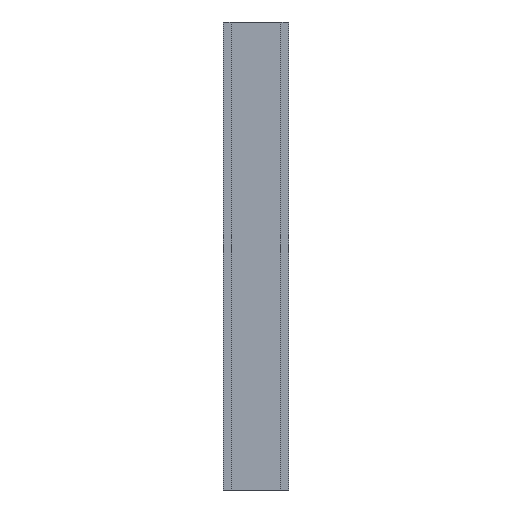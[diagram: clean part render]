
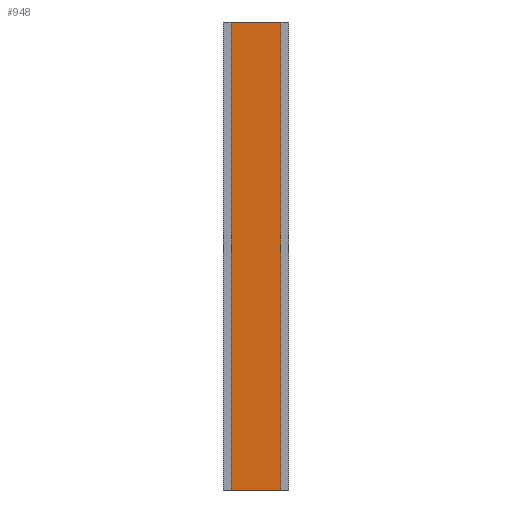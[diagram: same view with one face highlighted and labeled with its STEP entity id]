
A CAD part, front view. The second image highlights one B-rep face of the part: STEP entity #948.
In plain terms, the highlighted planar face has unit normal (0, -1, 0).
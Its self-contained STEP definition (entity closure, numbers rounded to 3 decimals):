
#46 = DIRECTION ( 'NONE',  ( 0., 0., 1. ) ) ;
#49 = CARTESIAN_POINT ( 'NONE',  ( -29.5, -18.3, -500. ) ) ;
#147 = DIRECTION ( 'NONE',  ( 0., 0., 1. ) ) ;
#148 = CARTESIAN_POINT ( 'NONE',  ( -29.5, -18.3, 0. ) ) ;
#150 = DIRECTION ( 'NONE',  ( -1., 0., 0. ) ) ;
#159 = CARTESIAN_POINT ( 'NONE',  ( -29.5, -18.3, -500. ) ) ;
#164 = DIRECTION ( 'NONE',  ( -1., 0., 0. ) ) ;
#224 = CARTESIAN_POINT ( 'NONE',  ( 29.5, -18.3, -500. ) ) ;
#405 = CARTESIAN_POINT ( 'NONE',  ( -29.5, -18.3, -500. ) ) ;
#413 = CARTESIAN_POINT ( 'NONE',  ( -29.5, -18.3, 0. ) ) ;
#485 = VERTEX_POINT ( 'NONE', #654 ) ;
#490 = VERTEX_POINT ( 'NONE', #643 ) ;
#547 = DIRECTION ( 'NONE',  ( 0., 0., 1. ) ) ;
#549 = DIRECTION ( 'NONE',  ( 0., 1., 0. ) ) ;
#566 = CARTESIAN_POINT ( 'NONE',  ( -29.5, -18.3, -500. ) ) ;
#568 = PLANE ( 'NONE',  #1083 ) ;
#619 = VERTEX_POINT ( 'NONE', #405 ) ;
#643 = CARTESIAN_POINT ( 'NONE',  ( 29.5, -18.3, -500. ) ) ;
#654 = CARTESIAN_POINT ( 'NONE',  ( 29.5, -18.3, 0. ) ) ;
#705 = VERTEX_POINT ( 'NONE', #413 ) ;
#948 = ADVANCED_FACE ( 'NONE', ( #1832 ), #568, .F. ) ;
#1083 = AXIS2_PLACEMENT_3D ( 'NONE', #566, #549, #547 ) ;
#1140 = EDGE_CURVE ( 'NONE', #619, #705, #1585, .T. ) ;
#1237 = EDGE_CURVE ( 'NONE', #490, #485, #1667, .T. ) ;
#1248 = EDGE_CURVE ( 'NONE', #490, #619, #1373, .T. ) ;
#1266 = EDGE_CURVE ( 'NONE', #485, #705, #1976, .T. ) ;
#1373 = LINE ( 'NONE', #159, #1503 ) ;
#1457 = VECTOR ( 'NONE', #147, 1000. ) ;
#1460 = ORIENTED_EDGE ( 'NONE', *, *, #1237, .T. ) ;
#1503 = VECTOR ( 'NONE', #164, 1000. ) ;
#1585 = LINE ( 'NONE', #49, #1810 ) ;
#1613 = ORIENTED_EDGE ( 'NONE', *, *, #1266, .T. ) ;
#1667 = LINE ( 'NONE', #224, #1457 ) ;
#1726 = VECTOR ( 'NONE', #150, 1000. ) ;
#1810 = VECTOR ( 'NONE', #46, 1000. ) ;
#1832 = FACE_OUTER_BOUND ( 'NONE', #2152, .T. ) ;
#1965 = ORIENTED_EDGE ( 'NONE', *, *, #1248, .F. ) ;
#1976 = LINE ( 'NONE', #148, #1726 ) ;
#2078 = ORIENTED_EDGE ( 'NONE', *, *, #1140, .F. ) ;
#2152 = EDGE_LOOP ( 'NONE', ( #1613, #2078, #1965, #1460 ) ) ;
